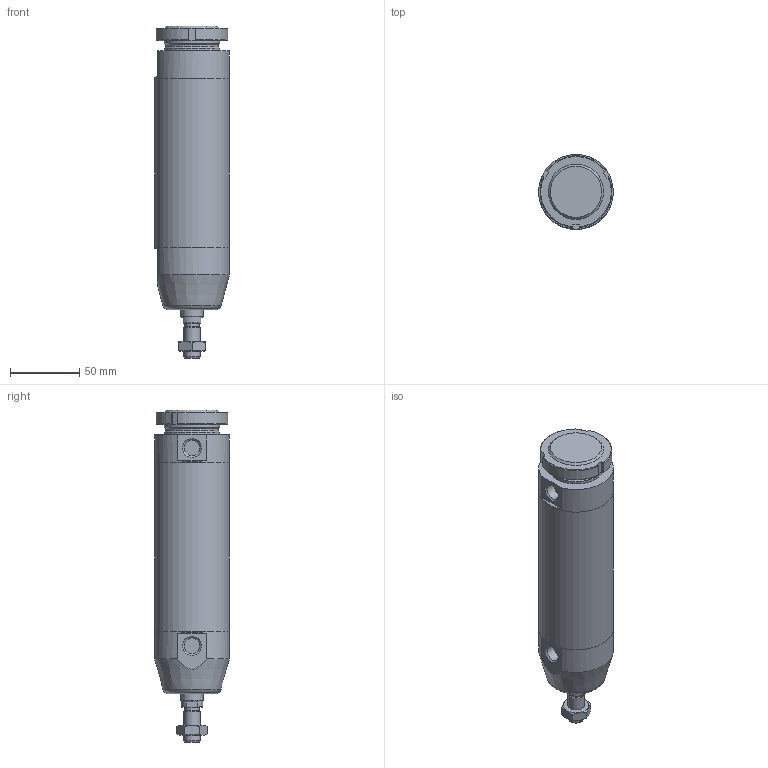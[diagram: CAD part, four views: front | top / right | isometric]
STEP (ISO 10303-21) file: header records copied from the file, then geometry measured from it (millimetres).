
FILE_DESCRIPTION(/* description */ (''),/* implementation_level */ '2;1');
FILE_NAME(/* name */ 'I:\Area Tecnica\Documenti\A-Manieri\_Inventor\12X\12X#B_###_####_#_#\12XAB_050_0080_#_#.stp',/* time_stamp */ '2015-04-27T16:25:17+02:00',/* author */ ('maniean1'),/* organization */ ('Pneumax S.p.A.'),/* preprocessor_version */ 'ST-DEVELOPER v15.2',/* originating_system */ 'Autodesk Inventor 2014',/* authorisation */ '');
FILE_SCHEMA (('AUTOMOTIVE_DESIGN { 1 0 10303 214 3 1 1 }'));
Length unit declared in the file: millimetre
Products named in the file (7): C1250_619-0080; 12X50_613; S12X50_0080; 12X_50_11; 12X50_620; G12X_050_05; 12XAB_050_0080_#_#
Bounding box: 54 x 54 x 240 mm (x, y, z)
Volume: 309060.9 mm3; surface area: 87224.7 mm2
Topology: 6 solids, 6 shells, 80 faces, 175 edges, 112 vertices
Faces by surface type: plane 40, cylinder 20, cone 19, torus 1
Full cylindrical faces by diameter (mm): 10.2 x1, 11.4 x2, 12 x2, 14 x1, 15.6 x1, 16 x1, 38.2 x1, 40 x3, 50 x2, 54 x3
Entity records: 2134 total; most frequent: CARTESIAN_POINT 399, DIRECTION 359, ORIENTED_EDGE 282, AXIS2_PLACEMENT_3D 154, EDGE_CURVE 141, EDGE_LOOP 122, VERTEX_POINT 107, ADVANCED_FACE 80
